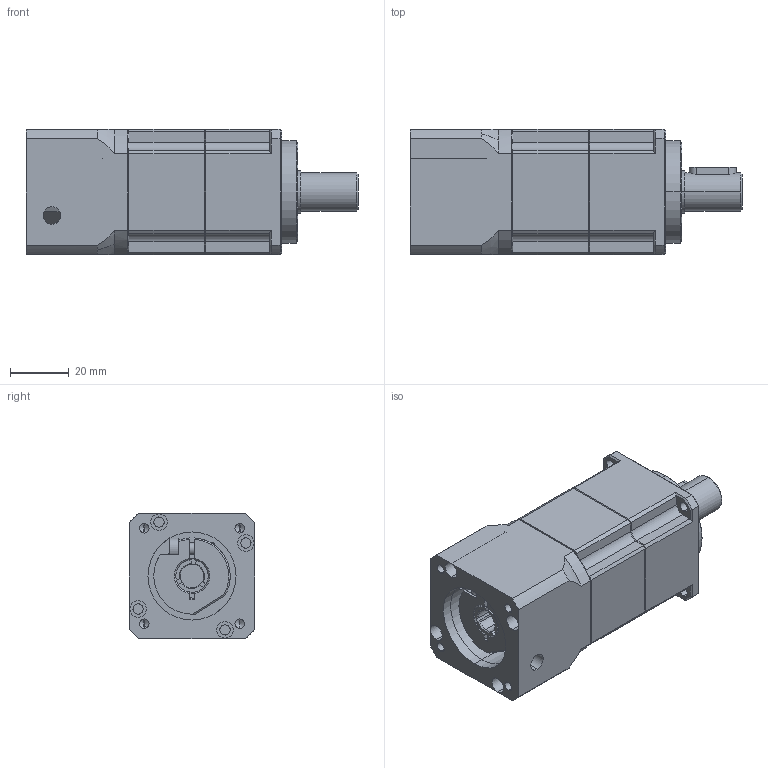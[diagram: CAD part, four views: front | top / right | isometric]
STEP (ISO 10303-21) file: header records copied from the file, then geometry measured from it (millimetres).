
FILE_DESCRIPTION (( 'STEP AP203' ), '1' );
FILE_NAME ('PD42-L2.STEP', '2020-11-25T00:21:46', ( '' ), ( '' ), 'SwSTEP 2.0', 'SolidWorks 2014', '' );
FILE_SCHEMA (( 'CONFIG_CONTROL_DESIGN' ));
Length unit declared in the file: millimetre
Products named in the file (8): PD42-SJH(坶踡遠); M3x12; 旮僱⑩粣創61902-2Z; 5X5X16; PD42-L2; PD42-CQ01（本体齿圈)_PD42-CQ01+CQ02; PD42-WZ01(帣釱)_1123; PD42-CLZ05(喘謫粣)
Assembly tree (7 placements, depth 2):
  PD42-L2
    PD42-CQ01（本体齿圈)_PD42-CQ01+CQ02
    PD42-WZ01(帣釱)_1123
    PD42-CLZ05(喘謫粣)
    PD42-SJH(坶踡遠)
    M3x12
    旮僱⑩粣創61902-2Z
    5X5X16
Bounding box: 113 x 42.6 x 42.6 mm (x, y, z)
Volume: 140214.3 mm3; surface area: 37333.5 mm2
Topology: 7 solids, 7 shells, 511 faces, 1394 edges, 902 vertices
Faces by surface type: cylinder 161, plane 160, sphere 86, cone 61, torus 43
Entity records: 19795 total; most frequent: CARTESIAN_POINT 6069, ORIENTED_EDGE 2768, DIRECTION 2699, EDGE_CURVE 1384, AXIS2_PLACEMENT_3D 1148, VERTEX_POINT 902, CIRCLE 627, EDGE_LOOP 592
